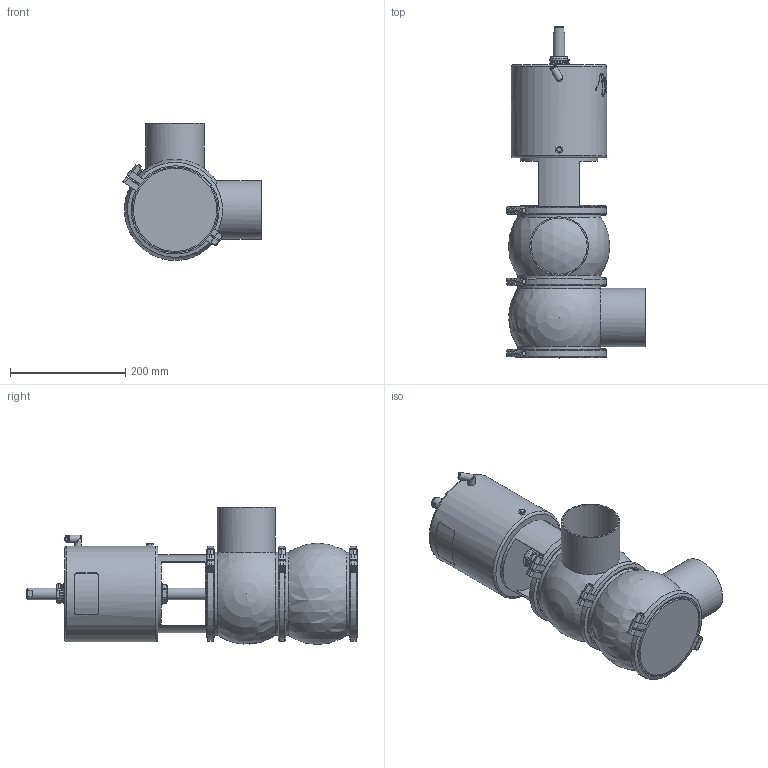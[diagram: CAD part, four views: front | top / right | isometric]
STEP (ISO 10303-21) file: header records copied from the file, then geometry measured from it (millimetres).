
FILE_DESCRIPTION (( 'STEP AP214' ), '1' );
FILE_NAME ('INNOVA M D W OD 4 T4 AS NC_10.241.16.0010.STEP', '2024-08-07T07:58:21', ( '' ), ( '' ), 'SwSTEP 2.0', 'SolidWorks 2023', '' );
FILE_SCHEMA (( 'AUTOMOTIVE_DESIGN' ));
Length unit declared in the file: millimetre
Products named in the file (6): 10.240.15.0006_OD 4"; 10.240.15.0010_DN 100; 10.240.15.0014_T4 AS P180; 10.240.15.0001_DN 100; INNOVA M D W OD 4 T4 AS NC_10.241.16.0010; 10.241.15.0001_DIN 100
Assembly tree (8 placements, depth 2):
  INNOVA M D W OD 4 T4 AS NC_10.241.16.0010
    10.240.15.0006_OD 4"  x2
    10.240.15.0010_DN 100
    10.240.15.0014_T4 AS P180
    10.240.15.0001_DN 100  x3
    10.241.15.0001_DIN 100
Bounding box: 241.26 x 576.5 x 238 mm (x, y, z)
Volume: 9369269.8 mm3; surface area: 672279.2 mm2
Topology: 9 solids, 9 shells, 459 faces, 1223 edges, 797 vertices
Faces by surface type: plane 225, cylinder 110, bspline 80, cone 36, sphere 4, torus 4
Full cylindrical faces by diameter (mm): 6.15 x1, 8 x7, 8.5 x1, 10.5 x1, 12.5 x3, 16 x1, 20 x2, 31 x1, 34.5 x2, 36.5 x1, 97.4 x2, 101.6 x2, 135 x1, 144.5 x5, 156.5 x6, 166 x1
Entity records: 20413 total; most frequent: CARTESIAN_POINT 11292, ORIENTED_EDGE 1598, DIRECTION 1207, EDGE_CURVE 799, VERTEX_POINT 548, AXIS2_PLACEMENT_3D 459, EDGE_LOOP 397, FACE_OUTER_BOUND 359
